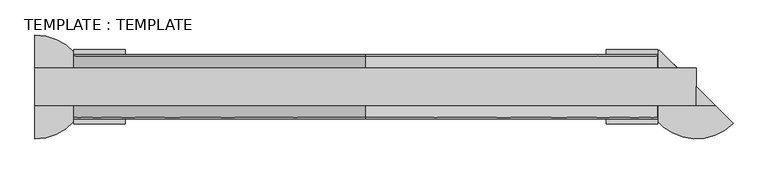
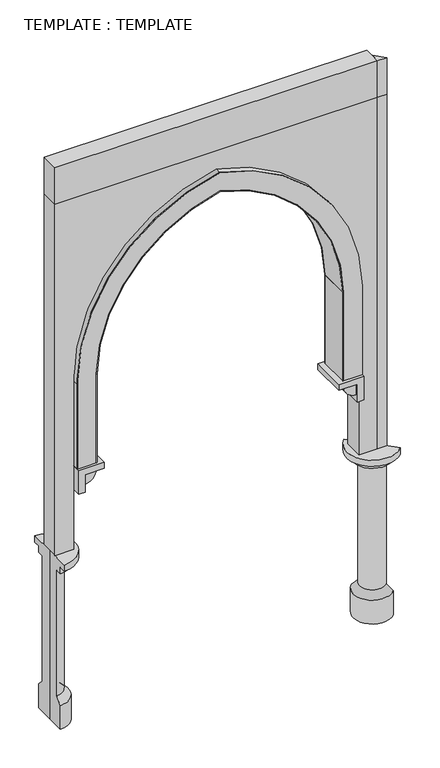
"""IFC4 building model written with IfcOpenShell, lengths in millimetres: plate geometry, TEMPLATE : TEMPLATE."""

from ifc_helpers import new_model, si_unit, point, frame, frame_2d, origin, place, context, project, spatial, polyline, circle_curve, trimmed, segment, composite_curve, outline, extrude, source, transform, mapped, element, save
from ifc_brep_helpers import plane_surface, cylinder_surface, revolved_surface, advanced_brep


def template_template_e36a3564(model_context):
    return source(origin(), model_context, "Body", "SolidModel", [
        extrude(outline(polyline([(1321.2450521, -71.2450521), (1250.0, -71.2450521), (1250.0, 0.0), (1321.2450521, -71.2450521)])), frame((0.0, 0.0, 4250.0), z_axis=(0.0, 0.0, 1.0), x_axis=(1.0, 0.0, 0.0)), (0.0, 0.0, 1.0), 300.0),
        extrude(outline(polyline([(1250.0, 71.2450521), (1250.0, -71.2450521), (-1250.0, -71.2450521), (-1250.0, 71.2450521), (1250.0, 71.2450521)])), frame((0.0, 0.0, 4250.0), z_axis=(0.0, 0.0, 1.0), x_axis=(1.0, 0.0, 0.0)), (0.0, 0.0, 1.0), 300.0),
        extrude(outline(composite_curve([segment(polyline([(2062.5, -1103.90625), (2062.5, -952.8125), (2789.7201638, -952.8125)]), True, "CONTINUOUS"), segment(trimmed(circle_curve(frame_2d((2770.9553186, 249.8536177)), 1202.8125), [point((2789.7201638, -952.8125))], [point((3947.5313169, 0.0))], True, "CARTESIAN"), True, "CONTINUOUS"), segment(trimmed(circle_curve(frame_2d((2770.9553186, -249.8536177)), 1202.8125), [point((3947.5313169, 0.0))], [point((2789.7201638, 952.8125))], True, "CARTESIAN"), True, "CONTINUOUS"), segment(polyline([(2789.7201638, 952.8125), (2062.5, 952.8125), (2062.5, 1103.90625), (2751.0466695, 1103.90625)]), True, "CONTINUOUS"), segment(trimmed(circle_curve(frame_2d((2770.9553186, -249.8536177)), 1353.90625), [point((2751.0466695, 1103.90625))], [point((4101.6075284, 0.0))], False, "CARTESIAN"), True, "CONTINUOUS"), segment(trimmed(circle_curve(frame_2d((2770.9553186, 249.8536177)), 1353.90625), [point((4101.6075284, 0.0))], [point((2751.0466695, -1103.90625))], False, "CARTESIAN"), True, "CONTINUOUS"), segment(polyline([(2751.0466695, -1103.90625), (2062.5, -1103.90625)]), True, "CONTINUOUS")], self_intersect=False)), frame((0.0, 116.8675781, 0.0), z_axis=(0.0, 1.0, 0.0), x_axis=(0.0, 0.0, 1.0)), (0.0, 0.0, 1.0), 5.0),
        extrude(outline(polyline([(1250.0, 0.0), (1321.2450521, -71.2450521), (1250.0, -71.2450521), (1250.0, 0.0)])), frame((0.0, 0.0, 1375.0), z_axis=(0.0, 0.0, 1.0), x_axis=(1.0, 0.0, 0.0)), (0.0, 0.0, 1.0), 2875.0),
        extrude(outline(composite_curve([segment(polyline([(2789.6812853, 952.813106), (2789.7591277, 957.8125)]), True, "CONTINUOUS"), segment(trimmed(circle_curve(frame_2d((2770.9553186, -249.8536177)), 1207.8125), [point((2789.7591277, 957.8125))], [point((3952.642335, 0.0))], False, "CARTESIAN"), True, "CONTINUOUS"), segment(trimmed(circle_curve(frame_2d((2770.9553186, 249.8536177)), 1207.8125), [point((3952.642335, 0.0))], [point((2789.7591277, -957.8125))], False, "CARTESIAN"), True, "CONTINUOUS"), segment(polyline([(2789.7591277, -957.8125), (2789.6812853, -952.813106)]), True, "CONTINUOUS"), segment(trimmed(circle_curve(frame_2d((2770.9553186, 249.8536177)), 1202.8125), [point((2789.6812853, -952.813106))], [point((3947.5313169, 0.0))], True, "CARTESIAN"), True, "CONTINUOUS"), segment(trimmed(circle_curve(frame_2d((2770.9553186, -249.8536177)), 1202.8125), [point((3947.5313169, 0.0))], [point((2789.6812853, 952.813106))], True, "CARTESIAN"), True, "CONTINUOUS")], self_intersect=False)), frame((0.0, -121.8675781, 0.0), z_axis=(0.0, 1.0, 0.0), x_axis=(0.0, 0.0, 1.0)), (0.0, 0.0, 1.0), 238.7351563),
        extrude(outline(polyline([(957.8125, 116.8675781), (957.8125, -121.8675781), (952.8125, -121.8675781), (952.8125, 116.8675781), (957.8125, 116.8675781)])), frame((0.0, 0.0, 2062.5), z_axis=(0.0, 0.0, 1.0), x_axis=(1.0, 0.0, 0.0)), (0.0, 0.0, 1.0), 727.2591277),
        extrude(outline(polyline([(-952.8125, 116.8675781), (-952.8125, -121.8675781), (-957.8125, -121.8675781), (-957.8125, 116.8675781), (-952.8125, 116.8675781)])), frame((0.0, 0.0, 2062.5), z_axis=(0.0, 0.0, 1.0), x_axis=(1.0, 0.0, 0.0)), (0.0, 0.0, 1.0), 727.2591277),
        extrude(outline(composite_curve([segment(polyline([(2013.8020833, 1055.2083333), (2013.8020833, 957.8125)]), True, "CONTINUOUS"), segment(trimmed(circle_curve(frame_2d((2013.8020833, 1055.2083333)), 97.3958333), [point((2013.8020833, 957.8125))], [point((1916.40625, 1055.2083333))], False, "CARTESIAN"), True, "CONTINUOUS"), segment(polyline([(1916.40625, 1055.2083333), (2013.8020833, 1055.2083333)]), True, "CONTINUOUS")], self_intersect=False)), frame((0.0, -121.8675781, 0.0), z_axis=(0.0, 1.0, 0.0), x_axis=(0.0, 0.0, 1.0)), (0.0, 0.0, 1.0), 238.7351563),
        extrude(outline(composite_curve([segment(polyline([(2013.8020833, -1055.2083333), (1916.40625, -1055.2083333)]), True, "CONTINUOUS"), segment(trimmed(circle_curve(frame_2d((2013.8020833, -1055.2083333)), 97.3958333), [point((1916.40625, -1055.2083333))], [point((2013.8020833, -957.8125))], False, "CARTESIAN"), True, "CONTINUOUS"), segment(polyline([(2013.8020833, -957.8125), (2013.8020833, -1055.2083333)]), True, "CONTINUOUS")], self_intersect=False)), frame((0.0, -121.8675781, 0.0), z_axis=(0.0, 1.0, 0.0), x_axis=(0.0, 0.0, 1.0)), (0.0, 0.0, 1.0), 238.7351563),
        advanced_brep(
        [(-1250.0, 196.7395833, 1375.0), (-1250.0, 196.7395833, 1324.3541667), (-1250.0, 146.09375, 1324.3541667), (-1250.0, 146.09375, 1273.7083333), (-1250.0, 97.3958333, 1273.7083333), (-1250.0, 97.3958333, 245.4375), (-1250.0, 146.09375, 194.7916667), (-1250.0, 146.09375, 0.0), (-1250.0, 0.0, 0.0), (-1250.0, 0.0, 1375.0), (-1250.0, -196.7395833, 1375.0), (-1250.0, -146.09375, 0.0), (-1250.0, -146.09375, 194.7916667), (-1250.0, -97.3958333, 245.4375), (-1250.0, -97.3958333, 1273.7083333), (-1250.0, -146.09375, 1273.7083333), (-1250.0, -146.09375, 1324.3541667), (-1250.0, -196.7395833, 1324.3541667)],
        [
            (0, 1),
            (1, 2),
            (2, 3),
            (3, 4),
            (4, 5),
            (5, 6),
            (6, 7),
            (7, 8),
            (8, 9),
            (9, 0),
            (10, 9),
            (8, 11),
            (11, 12),
            (12, 13),
            (13, 14),
            (14, 15),
            (15, 16),
            (16, 17),
            (17, 10),
            (17, 1, circle_curve(frame((-1250.0, 0.0, 1324.3541667), z_axis=(0.0, 0.0, 1.0), x_axis=(0.0, 1.0000000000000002, 0.0)), 196.7395833)),
            (0, 10, circle_curve(frame((-1250.0, 0.0, 1375.0), z_axis=(0.0, 0.0, -1.0), x_axis=(0.0, 1.0000000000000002, 0.0)), 196.7395833)),
            (16, 2, circle_curve(frame((-1250.0, 0.0, 1324.3541667), z_axis=(0.0, 0.0, 1.0), x_axis=(0.0, 1.0000000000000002, 0.0)), 146.09375)),
            (15, 3, circle_curve(frame((-1250.0, 0.0, 1273.7083333), z_axis=(0.0, 0.0, 1.0), x_axis=(0.0, 1.0000000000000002, 0.0)), 146.09375)),
            (14, 4, circle_curve(frame((-1250.0, 0.0, 1273.7083333), z_axis=(0.0, 0.0, 1.0), x_axis=(0.0, 1.0000000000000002, 0.0)), 97.3958333)),
            (13, 5, circle_curve(frame((-1250.0, 0.0, 245.4375), z_axis=(0.0, 0.0, 1.0), x_axis=(0.0, 1.0000000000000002, 0.0)), 97.3958333)),
            (12, 6, circle_curve(frame((-1250.0, 0.0, 194.7916667), z_axis=(0.0, 0.0, 1.0), x_axis=(0.0, 1.0000000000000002, 0.0)), 146.09375)),
            (11, 7, circle_curve(frame((-1250.0, 0.0, 0.0), z_axis=(0.0, 0.0, 1.0), x_axis=(0.0, 1.0000000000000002, 0.0)), 146.09375)),
        ],
        [
            plane_surface(frame((-1250.0, 0.0, -1400.0), z_axis=(-1.0, 0.0, 0.0), x_axis=(0.0, 1.0, 0.0))),
            plane_surface(frame((-1250.0, 0.0, -1400.0), z_axis=(-1.0, 0.0, 0.0), x_axis=(0.0, -1.0, 0.0))),
            cylinder_surface(frame((-1250.0, 0.0, -1400.0), z_axis=(0.0, 0.0, 1.0), x_axis=(0.0, 1.0000000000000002, 0.0)), 196.7395833),
            plane_surface(frame((-1250.0, 0.0, 1324.3541667), z_axis=(0.0, 0.0, -1.0), x_axis=(0.0, 1.0, 0.0))),
            cylinder_surface(frame((-1250.0, 0.0, -1400.0), z_axis=(0.0, 0.0, 1.0), x_axis=(0.0, 1.0000000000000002, 0.0)), 146.09375),
            plane_surface(frame((-1250.0, 0.0, 1273.7083333), z_axis=(0.0, 0.0, -1.0), x_axis=(0.0, 1.0, 0.0))),
            cylinder_surface(frame((-1250.0, 0.0, -1400.0), z_axis=(0.0, 0.0, 1.0), x_axis=(0.0, 1.0000000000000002, 0.0)), 97.3958333),
            revolved_surface(polyline([(-1250.0, 146.09375, 194.7916667), (-1250.0, 97.3958333, 245.4375)]), (-1250.0, 0.0, -1400.0), (0.0, 0.0, 1.0)),
            plane_surface(frame((-1250.0, 0.0, 0.0), z_axis=(0.0, 0.0, -1.0), x_axis=(0.0, 1.0, 0.0))),
            plane_surface(frame((-1250.0, 0.0, 1375.0), z_axis=(0.0, 0.0, 1.0), x_axis=(0.0, 1.0, 0.0))),
        ],
        [
            (0, [[1, 2, 3, 4, 5, 6, 7, 8, 9, 10]]),
            (1, [[11, -9, 12, 13, 14, 15, 16, 17, 18, 19]]),
            (2, [[-19, 20, -1, 21]]),
            (3, [[-18, 22, -2, -20]]),
            (4, [[-17, 23, -3, -22]]),
            (5, [[-16, 24, -4, -23]]),
            (6, [[-15, 25, -5, -24]]),
            (7, [[-14, 26, -6, -25]]),
            (4, [[-13, 27, -7, -26]]),
            (8, [[-12, -8, -27]]),
            (9, [[-11, -21, -10]]),
        ],
    ),
        extrude(outline(polyline([(2062.5, 1103.90625), (2062.5, 909.1145833), (2013.8020833, 909.1145833), (2013.8020833, 1055.2083333), (1867.7083333, 1055.2083333), (1867.7083333, 1103.90625), (2062.5, 1103.90625)])), frame((0.0, -141.2165365, 0.0), z_axis=(0.0, 1.0, 0.0), x_axis=(0.0, 0.0, 1.0)), (0.0, 0.0, 1.0), 282.4330729),
        extrude(outline(polyline([(2062.5, -1103.90625), (1867.7083333, -1103.90625), (1867.7083333, -1055.2083333), (2013.8020833, -1055.2083333), (2013.8020833, -909.1145833), (2062.5, -909.1145833), (2062.5, -1103.90625)])), frame((0.0, -141.2165365, 0.0), z_axis=(0.0, 1.0, 0.0), x_axis=(0.0, 0.0, 1.0)), (0.0, 0.0, 1.0), 282.4330729),
        advanced_brep(
        [(1110.8841065, 139.1158935, 1375.0), (1250.0, 0.0, 1375.0), (1250.0, 0.0, 0.0), (1146.6961187, 103.3038813, 0.0), (1146.6961187, 103.3038813, 194.7916667), (1181.1307458, 68.8692542, 245.4375), (1181.1307458, 68.8692542, 1273.7083333), (1146.6961187, 103.3038813, 1273.7083333), (1146.6961187, 103.3038813, 1324.3541667), (1110.8841065, 139.1158935, 1324.3541667), (1389.1158935, -139.1158935, 1375.0), (1389.1158935, -139.1158935, 1324.3541667), (1353.3038813, -103.3038813, 1324.3541667), (1353.3038813, -103.3038813, 1273.7083333), (1318.8692542, -68.8692542, 1273.7083333), (1318.8692542, -68.8692542, 245.4375), (1353.3038813, -103.3038813, 194.7916667), (1353.3038813, -103.3038813, 0.0)],
        [
            (0, 1),
            (1, 2),
            (2, 3),
            (3, 4),
            (4, 5),
            (5, 6),
            (6, 7),
            (7, 8),
            (8, 9),
            (9, 0),
            (10, 11),
            (11, 12),
            (12, 13),
            (13, 14),
            (14, 15),
            (15, 16),
            (16, 17),
            (17, 2),
            (1, 10),
            (10, 0, circle_curve(frame((1250.0, 0.0, 1375.0), z_axis=(0.0, 0.0, -1.0), x_axis=(-0.7071067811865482, 0.707106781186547, 0.0)), 196.7395833)),
            (9, 11, circle_curve(frame((1250.0, 0.0, 1324.3541667), z_axis=(0.0, 0.0, 1.0), x_axis=(-0.7071067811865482, 0.707106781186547, 0.0)), 196.7395833)),
            (8, 12, circle_curve(frame((1250.0, 0.0, 1324.3541667), z_axis=(0.0, 0.0, 1.0), x_axis=(-0.7071067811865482, 0.707106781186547, 0.0)), 146.09375)),
            (7, 13, circle_curve(frame((1250.0, 0.0, 1273.7083333), z_axis=(0.0, 0.0, 1.0), x_axis=(-0.7071067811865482, 0.707106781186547, 0.0)), 146.09375)),
            (6, 14, circle_curve(frame((1250.0, 0.0, 1273.7083333), z_axis=(0.0, 0.0, 1.0), x_axis=(-0.7071067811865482, 0.707106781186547, 0.0)), 97.3958333)),
            (5, 15, circle_curve(frame((1250.0, 0.0, 245.4375), z_axis=(0.0, 0.0, 1.0), x_axis=(-0.7071067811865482, 0.707106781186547, 0.0)), 97.3958333)),
            (4, 16, circle_curve(frame((1250.0, 0.0, 194.7916667), z_axis=(0.0, 0.0, 1.0), x_axis=(-0.7071067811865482, 0.707106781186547, 0.0)), 146.09375)),
            (3, 17, circle_curve(frame((1250.0, 0.0, 0.0), z_axis=(0.0, 0.0, 1.0), x_axis=(-0.7071067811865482, 0.707106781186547, 0.0)), 146.09375)),
        ],
        [
            plane_surface(frame((1250.0, 0.0, -1400.0), z_axis=(0.707106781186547, 0.7071067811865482, 0.0), x_axis=(-0.7071067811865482, 0.707106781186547, 0.0))),
            plane_surface(frame((1250.0, 0.0, -1400.0), z_axis=(0.7071067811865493, 0.7071067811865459, 0.0), x_axis=(0.7071067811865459, -0.7071067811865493, 0.0))),
            cylinder_surface(frame((1250.0, 0.0, -1400.0), z_axis=(0.0, 0.0, -1.0), x_axis=(-0.7071067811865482, 0.707106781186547, 0.0)), 196.7395833),
            plane_surface(frame((1250.0, 0.0, 1324.3541667), z_axis=(0.0, 0.0, -1.0000000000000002), x_axis=(-0.7071067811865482, 0.707106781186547, 0.0))),
            cylinder_surface(frame((1250.0, 0.0, -1400.0), z_axis=(0.0, 0.0, -1.0), x_axis=(-0.7071067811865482, 0.707106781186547, 0.0)), 146.09375),
            plane_surface(frame((1250.0, 0.0, 1273.7083333), z_axis=(0.0, 0.0, -1.0000000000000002), x_axis=(-0.7071067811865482, 0.707106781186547, 0.0))),
            cylinder_surface(frame((1250.0, 0.0, -1400.0), z_axis=(0.0, 0.0, -1.0), x_axis=(-0.7071067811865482, 0.707106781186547, 0.0)), 97.3958333),
            revolved_surface(polyline([(1181.1307458, 68.8692542, 245.4375), (1146.6961187, 103.3038813, 194.7916667)]), (1250.0, 0.0, -1400.0), (0.0, 0.0, -1.0)),
            plane_surface(frame((1250.0, 0.0, 0.0), z_axis=(0.0, 0.0, -1.0000000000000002), x_axis=(-0.7071067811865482, 0.707106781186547, 0.0))),
            plane_surface(frame((1250.0, 0.0, 1375.0), z_axis=(0.0, 0.0, 1.0000000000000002), x_axis=(-0.7071067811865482, 0.707106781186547, 0.0))),
        ],
        [
            (0, [[1, 2, 3, 4, 5, 6, 7, 8, 9, 10]]),
            (1, [[11, 12, 13, 14, 15, 16, 17, 18, -2, 19]]),
            (2, [[-11, 20, -10, 21]]),
            (3, [[-12, -21, -9, 22]]),
            (4, [[-13, -22, -8, 23]]),
            (5, [[-14, -23, -7, 24]]),
            (6, [[-15, -24, -6, 25]]),
            (7, [[-16, -25, -5, 26]]),
            (4, [[-17, -26, -4, 27]]),
            (8, [[-18, -27, -3]]),
            (9, [[-19, -1, -20]]),
        ],
    ),
        extrude(outline(composite_curve([segment(polyline([(1375.0, 1250.0), (4250.0, 1250.0), (4250.0, -1250.0), (1375.0, -1250.0), (1375.0, -1103.90625), (2790.8639676, -1103.90625)]), True, "CONTINUOUS"), segment(trimmed(circle_curve(frame_2d((2770.9553186, 249.8536177)), 1353.90625), [point((2790.8639676, -1103.90625))], [point((4101.6075284, 0.0))], True, "CARTESIAN"), True, "CONTINUOUS"), segment(trimmed(circle_curve(frame_2d((2770.9553186, -249.8536177)), 1353.90625), [point((4101.6075284, 0.0))], [point((2790.8639676, 1103.90625))], True, "CARTESIAN"), True, "CONTINUOUS"), segment(polyline([(2790.8639676, 1103.90625), (1375.0, 1103.90625), (1375.0, 1250.0)]), True, "CONTINUOUS")], self_intersect=False)), frame((0.0, -71.2450521, 0.0), z_axis=(0.0, 1.0, 0.0), x_axis=(0.0, 0.0, 1.0)), (0.0, 0.0, 1.0), 142.4901042),
        extrude(outline(composite_curve([segment(trimmed(circle_curve(frame_2d((2770.9553186, 249.8536177)), 1353.90625), [point((4101.6075284, 0.0))], [point((2790.8639676, -1103.90625))], False, "CARTESIAN"), True, "CONTINUOUS"), segment(polyline([(2790.8639676, -1103.90625), (2062.5, -1103.90625), (2062.5, -957.8125), (2789.7591277, -957.8125)]), True, "CONTINUOUS"), segment(trimmed(circle_curve(frame_2d((2770.9553186, 249.8536177)), 1207.8125), [point((2789.7591277, -957.8125))], [point((3952.642335, 0.0))], True, "CARTESIAN"), True, "CONTINUOUS"), segment(trimmed(circle_curve(frame_2d((2770.9553186, -249.8536177)), 1207.8125), [point((3952.642335, 0.0))], [point((2789.7591277, 957.8125))], True, "CARTESIAN"), True, "CONTINUOUS"), segment(polyline([(2789.7591277, 957.8125), (2062.5, 957.8125), (2062.5, 1103.90625), (2790.8639676, 1103.90625)]), True, "CONTINUOUS"), segment(trimmed(circle_curve(frame_2d((2770.9553186, -249.8536177)), 1353.90625), [point((2790.8639676, 1103.90625))], [point((4101.6075284, 0.0))], False, "CARTESIAN"), True, "CONTINUOUS")], self_intersect=False)), frame((0.0, -121.8675781, 0.0), z_axis=(0.0, 1.0, 0.0), x_axis=(0.0, 0.0, 1.0)), (0.0, 0.0, 1.0), 5.0),
        extrude(outline(polyline([(-957.8125, -116.8675781), (-1103.90625, -116.8675781), (-1103.90625, 116.8675781), (-957.8125, 116.8675781), (-957.8125, -116.8675781)])), frame((0.0, 0.0, 2062.5), z_axis=(0.0, 0.0, 1.0), x_axis=(1.0, 0.0, 0.0)), (0.0, 0.0, 1.0), 687.5),
        extrude(outline(polyline([(957.8125, -116.8675781), (957.8125, 116.8675781), (1103.90625, 116.8675781), (1103.90625, -116.8675781), (957.8125, -116.8675781)])), frame((0.0, 0.0, 2062.5), z_axis=(0.0, 0.0, 1.0), x_axis=(1.0, 0.0, 0.0)), (0.0, 0.0, 1.0), 687.5),
        extrude(outline(composite_curve([segment(polyline([(2752.0409607, -1103.920507), (2754.0819214, -957.841014)]), True, "CONTINUOUS"), segment(trimmed(circle_curve(frame_2d((2770.9553186, 249.8536177)), 1207.8125), [point((2754.0819214, -957.841014))], [point((3952.642335, 0.0))], True, "CARTESIAN"), True, "CONTINUOUS"), segment(trimmed(circle_curve(frame_2d((2770.9553186, -249.8536177)), 1207.8125), [point((3952.642335, 0.0))], [point((2754.0819214, 957.841014))], True, "CARTESIAN"), True, "CONTINUOUS"), segment(polyline([(2754.0819214, 957.841014), (2752.0409607, 1103.920507)]), True, "CONTINUOUS"), segment(trimmed(circle_curve(frame_2d((2770.9553186, -249.8536177)), 1353.90625), [point((2752.0409607, 1103.920507))], [point((4101.6075284, 0.0))], False, "CARTESIAN"), True, "CONTINUOUS"), segment(trimmed(circle_curve(frame_2d((2770.9553186, 249.8536177)), 1353.90625), [point((4101.6075284, 0.0))], [point((2752.0409607, -1103.920507))], False, "CARTESIAN"), True, "CONTINUOUS")], self_intersect=False)), frame((0.0, -116.8675781, 0.0), z_axis=(0.0, 1.0, 0.0), x_axis=(0.0, 0.0, 1.0)), (0.0, 0.0, 1.0), 233.7351563),
    ])


if __name__ == "__main__":
    model = new_model("IFC4")
    model_context = context("Model", 3, world=origin())
    ifc_project = project(units=[si_unit("LENGTHUNIT", "METRE", prefix="MILLI")], contexts=[model_context])
    site = spatial("IfcSite", under=ifc_project)
    building = spatial("IfcBuilding", under=site)
    placement = place(None, origin())
    template_template_shape = template_template_e36a3564(model_context)
    element("IfcPlate", 1, ObjectType="TEMPLATE : TEMPLATE", at=placement, inside=building, context=model_context, shape_type="MappedRepresentation", body=[
        mapped(template_template_shape, transform((0.0, 0.0, 0.0), x_axis=(1.0, 0.0, 0.0), y_axis=(0.0, 1.0, 0.0), z_axis=(0.0, 0.0, 1.0))),
    ])
    save(model, "model.ifc")
